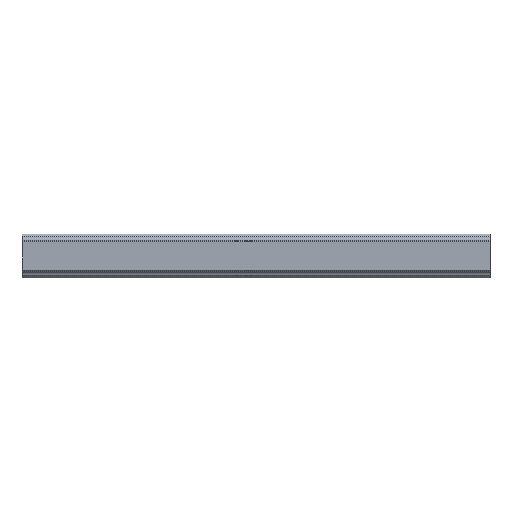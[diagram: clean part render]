
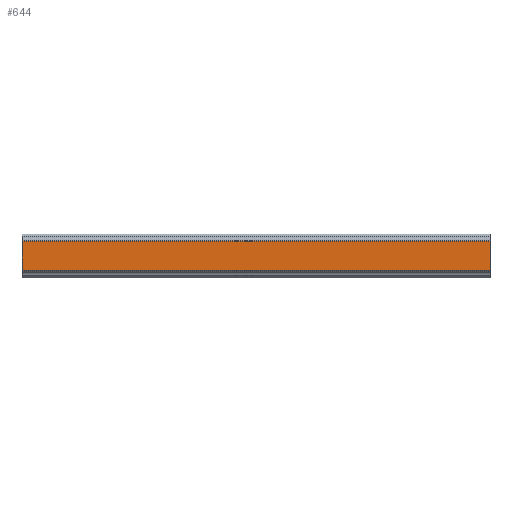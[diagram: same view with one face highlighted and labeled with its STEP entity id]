
A CAD part, top view. The second image highlights one B-rep face of the part: STEP entity #644.
In plain terms, the highlighted planar face has unit normal (0, 0, 1).
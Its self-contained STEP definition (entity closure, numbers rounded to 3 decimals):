
#583=CARTESIAN_POINT('POINT39',(140.,-4.949,
   15.));
#584=VERTEX_POINT('VERTEX39',#583);
#591=CARTESIAN_POINT('POINT40',(-20.,-4.949,
   15.));
#592=VERTEX_POINT('VERTEX40',#591);
#593=CARTESIAN_POINT('POS67',(-20.,-4.949,
   15.));
#594=DIRECTION('DIR96',(1.,0.,0.));
#595=VECTOR('VEC38',#594,1.);
#596=LINE('STRAIGHT38',#593,#595);
#597=EDGE_CURVE('EDGE58',#592,#584,#596,.T.);
#614=CARTESIAN_POINT('POINT41',(140.,4.949,
   15.));
#615=VERTEX_POINT('VERTEX41',#614);
#616=CARTESIAN_POINT('POS70',(140.,-4.949,
   15.));
#617=DIRECTION('DIR100',(0.,1.,0.));
#618=VECTOR('VEC40',#617,1.);
#619=LINE('STRAIGHT40',#616,#618);
#620=EDGE_CURVE('EDGE60',#584,#615,#619,.T.);
#621=ORIENTED_EDGE('COEDGE93',*,*,#620,.T.);
#622=CARTESIAN_POINT('POINT42',(-20.,4.949,
   15.));
#623=VERTEX_POINT('VERTEX42',#622);
#624=CARTESIAN_POINT('POS71',(-20.,4.949,
   15.));
#625=DIRECTION('DIR101',(1.,0.,0.));
#626=VECTOR('VEC41',#625,1.);
#627=LINE('STRAIGHT41',#624,#626);
#628=EDGE_CURVE('EDGE61',#623,#615,#627,.T.);
#629=ORIENTED_EDGE('COEDGE94',*,*,#628,.F.);
#630=CARTESIAN_POINT('POS72',(-20.,-4.949,
   15.));
#631=DIRECTION('DIR102',(0.,1.,0.));
#632=VECTOR('VEC42',#631,1.);
#633=LINE('STRAIGHT42',#630,#632);
#634=EDGE_CURVE('EDGE62',#592,#623,#633,.T.);
#635=ORIENTED_EDGE('COEDGE95',*,*,#634,.F.);
#636=ORIENTED_EDGE('COEDGE96',*,*,#597,.T.);
#637=EDGE_LOOP('NONE',(#621,#629,#635,#636));
#638=FACE_BOUND('LOOP1',#637,.T.);
#639=CARTESIAN_POINT('POS73',(-20.,-4.949,
   15.));
#640=DIRECTION('DIR103',(0.,0.,1.));
#641=DIRECTION('DIR104',(1.,0.,0.));
#642=AXIS2_PLACEMENT_3D('AXIS31',#639,#640,#641);
#643=PLANE('PLANE11',#642);
#644=ADVANCED_FACE('FACE25',(#638),#643,.T.);
